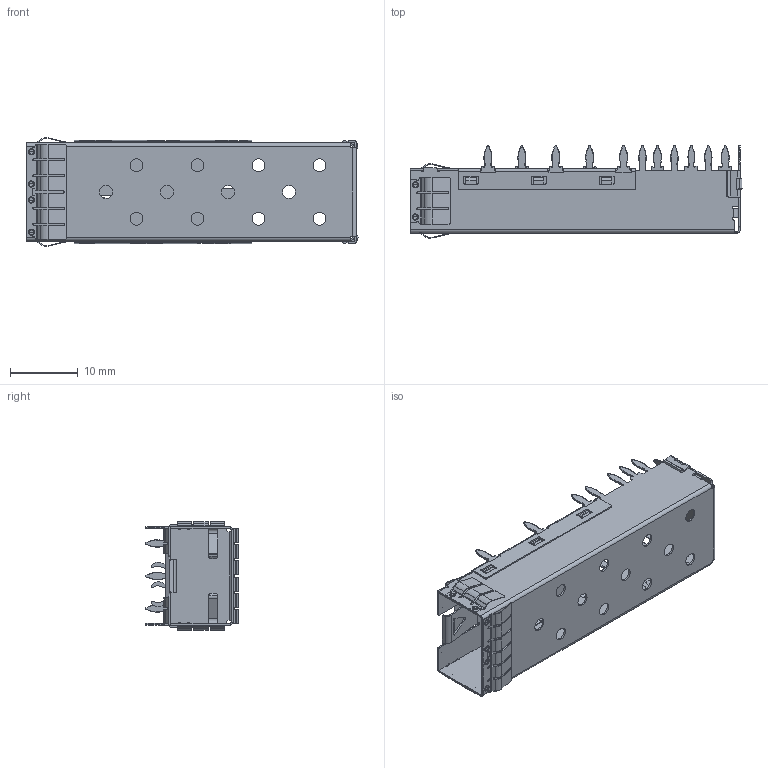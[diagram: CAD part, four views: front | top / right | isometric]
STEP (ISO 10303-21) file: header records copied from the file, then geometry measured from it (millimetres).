
FILE_DESCRIPTION (( 'STEP AP214' ), '1' );
FILE_NAME ('SS10-0001140000-0000-X.STEP', '2021-06-16T00:26:50', ( '' ), ( '' ), 'SwSTEP 2.0', 'SolidWorks 2012', '' );
FILE_SCHEMA (( 'AUTOMOTIVE_DESIGN' ));
Length unit declared in the file: millimetre
Products named in the file (6): SS20-S150_1x1-Top Spring Ass''y; SB10-S110-1_pressfit3.05-Legs17-頂部散熱圓孔1.9-single; SB10-S120_Ground pin; SS10-0001140000-0000-X; SS20-S150_1x1-Side Spring Ass''y; SS20-S150_1x1-Bottom Spring ass''y
Assembly tree (6 placements, depth 2):
  SS10-0001140000-0000-X
    SB10-S110-1_pressfit3.05-Legs17-頂部散熱圓孔1.9-single
    SB10-S120_Ground pin
    SS20-S150_1x1-Top Spring Ass''y
    SS20-S150_1x1-Side Spring Ass''y  x2
    SS20-S150_1x1-Bottom Spring ass''y
Bounding box: 48.97 x 13.6 x 16 mm (x, y, z)
Volume: 597.4 mm3; surface area: 5270.4 mm2
Topology: 6 solids, 6 shells, 1715 faces, 4581 edges, 2874 vertices
Faces by surface type: plane 859, cylinder 688, bspline 72, torus 48, sphere 48
Entity records: 55962 total; most frequent: CARTESIAN_POINT 15215, ORIENTED_EDGE 8600, DIRECTION 8538, EDGE_CURVE 4300, AXIS2_PLACEMENT_3D 2983, VERTEX_POINT 2704, VECTOR 2572, LINE 2572
